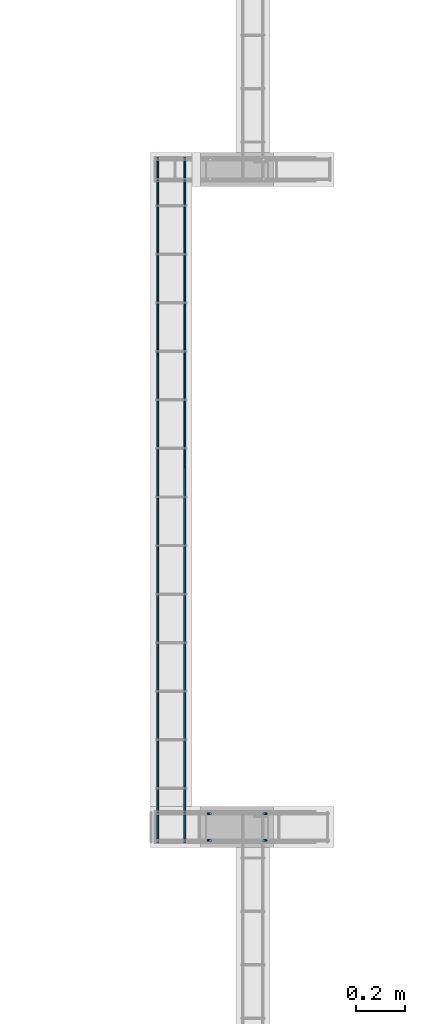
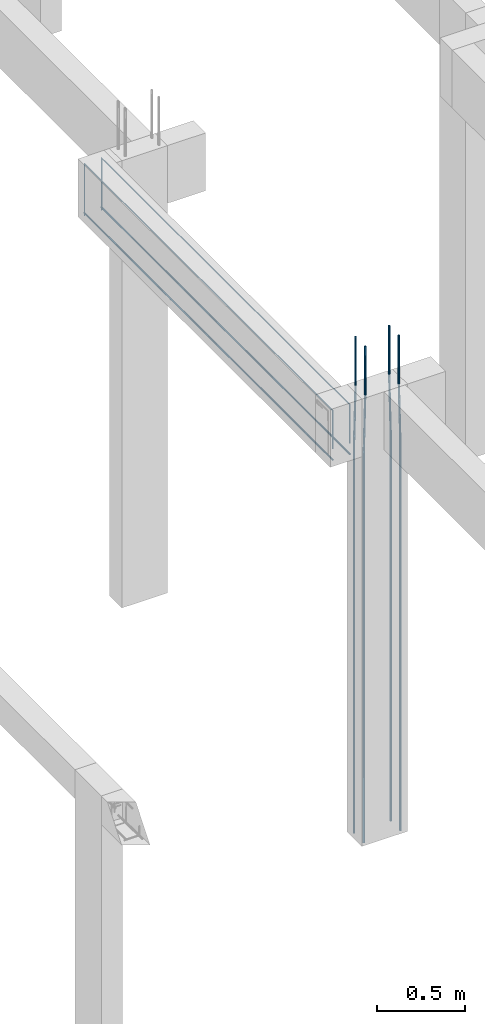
# One storey, part 21 of 236: 8 reinforcing bars.
"""IFC4 building model written with IfcOpenShell, lengths in centimetres."""

from ifc_helpers import new_model, entity, si_unit, derived_unit, frame, origin_with_axes, place, context, project, spatial, element, save


model = new_model("IFC4")

# Units and contexts
model_context = context("Model", 3, precision=1e-05, world=origin_with_axes(), identifier="Body")
ifc_project = project(units=[si_unit("LENGTHUNIT", "METRE", prefix="CENTI"), si_unit("VOLUMEUNIT", "CUBIC_METRE"), si_unit("AREAUNIT", "SQUARE_METRE"), si_unit("POWERUNIT", "WATT"), si_unit("LUMINOUSFLUXUNIT", "LUMEN"), si_unit("ELECTRICCURRENTUNIT", "AMPERE"), si_unit("PRESSUREUNIT", "PASCAL", prefix="KILO"), si_unit("MASSUNIT", "GRAM", prefix="KILO"), si_unit("PLANEANGLEUNIT", "RADIAN"), derived_unit("VOLUMETRICFLOWRATEUNIT", [(si_unit("LENGTHUNIT", "METRE"), 3), (si_unit("TIMEUNIT", "SECOND"), -1)])], contexts=[model_context])

# Site, building, storey
site_placement = place(None, frame((-4000.0, 0.0, 0.0), z_axis=(0.0, 0.0, 1.0), x_axis=(1.0, 0.0, 0.0)))
site = spatial("IfcSite", under=ifc_project, at=site_placement, Name="PADRÃO")
building_placement = place(site_placement, frame((0.0, 0.0, -14.0)))
building = spatial("IfcBuilding", under=site, at=building_placement, Name="CRECHE PRÉ-ESCOLA TIPO 2")
placement_1 = place(building_placement, origin_with_axes())
placement_2 = place(placement_1, frame((0.0, 0.0, 30.0), z_axis=(0.0, 0.0, 1.0), x_axis=(1.0, 0.0, 0.0)))
storey_placement = place(placement_2, frame((0.0, 0.0, 310.0), z_axis=(0.0, 0.0, 1.0), x_axis=(1.0, 0.0, 0.0)))
storey = spatial("IfcBuildingStorey", under=building, at=storey_placement, Name="TERREO", CompositionType="ELEMENT", Elevation=326.0)

# Reinforcing bars
for number, where, z_axis, x_axis, name in (
    (1, (281.0, 1036.0, 33.3573001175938), (0.0, 0.0, 1.0), (1.0, 0.0, 0.0), "P116 - Longitudinal"),
    (2, (281.0, 1025.0, 33.3573001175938), (0.0, 0.0, 1.0), (1.0, 0.0, 0.0), "P116 - Longitudinal"),
):
    element("IfcReinforcingBar", number, at=place(storey_placement, frame(where, z_axis=z_axis, x_axis=x_axis)), inside=storey, Name=name, BarLength=0.0, CrossSectionArea=7.853981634e-05, NominalDiameter=1.0, PredefinedType="MAIN", context=model_context, shape_type="AdvancedSweptSolid", body=[
        entity("IfcSweptDiskSolid", entity("IfcCompositeCurve", [entity("IfcCompositeCurveSegment", "CONTINUOUS", True, entity("IfcPolyline", [entity("IfcCartesianPoint", [0.5, 0.0, -343.357300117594]), entity("IfcCartesianPoint", [0.5, 0.0, -73.3573001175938])])), entity("IfcCompositeCurveSegment", "CONTINUOUS", True, entity("IfcPolyline", [entity("IfcCartesianPoint", [0.5, 0.0, -73.3573001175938]), entity("IfcCartesianPoint", [-0.5, 0.0, -33.3573001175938])])), entity("IfcCompositeCurveSegment", "CONTINUOUS", True, entity("IfcPolyline", [entity("IfcCartesianPoint", [-0.5, 0.0, -33.3573001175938]), entity("IfcCartesianPoint", [-0.5, 0.0, 0.0])]))], False), 0.5),
    ])
for number, where, z_axis, x_axis, name in (
    (3, (258.0, 1036.0, 33.3573001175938), (0.0, 0.0, 1.0), (1.0, 0.0, 0.0), "P116 - Longitudinal"),
    (4, (258.0, 1025.0, 33.3573001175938), (0.0, 0.0, 1.0), (1.0, 0.0, 0.0), "P116 - Longitudinal"),
):
    element("IfcReinforcingBar", number, at=place(storey_placement, frame(where, z_axis=z_axis, x_axis=x_axis)), inside=storey, Name=name, BarLength=0.0, CrossSectionArea=7.853981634e-05, NominalDiameter=1.0, PredefinedType="MAIN", context=model_context, shape_type="AdvancedSweptSolid", body=[
        entity("IfcSweptDiskSolid", entity("IfcCompositeCurve", [entity("IfcCompositeCurveSegment", "CONTINUOUS", True, entity("IfcPolyline", [entity("IfcCartesianPoint", [-0.5, 0.0, -343.357300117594]), entity("IfcCartesianPoint", [-0.5, 0.0, -73.3573001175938])])), entity("IfcCompositeCurveSegment", "CONTINUOUS", True, entity("IfcPolyline", [entity("IfcCartesianPoint", [-0.5, 0.0, -73.3573001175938]), entity("IfcCartesianPoint", [0.5, 0.0, -33.3573001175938])])), entity("IfcCompositeCurveSegment", "CONTINUOUS", True, entity("IfcPolyline", [entity("IfcCartesianPoint", [0.5, 0.0, -33.3573001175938]), entity("IfcCartesianPoint", [0.5, 0.0, 0.0])]))], False), 0.5),
    ])
for number, where, z_axis, x_axis, name in (
    (5, (236.75, 1165.25, -36.7), (0.0, 0.0, 1.0), (1.0, 0.0, 0.0), "V260 - Longitudinal inferior"),
    (6, (247.95, 1165.25, -36.7), (0.0, 0.0, 1.0), (1.0, 0.0, 0.0), "V260 - Longitudinal inferior"),
):
    element("IfcReinforcingBar", number, at=place(storey_placement, frame(where, z_axis=z_axis, x_axis=x_axis)), inside=storey, Name=name, BarLength=0.0, CrossSectionArea=5.0265482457e-05, NominalDiameter=0.8, PredefinedType="MAIN", context=model_context, shape_type="AdvancedSweptSolid", body=[
        entity("IfcSweptDiskSolid", entity("IfcCompositeCurve", [entity("IfcCompositeCurveSegment", "CONTINUOUS", True, entity("IfcPolyline", [entity("IfcCartesianPoint", [0.0, -141.25, -0.4]), entity("IfcCartesianPoint", [0.0, 141.25, -0.4])]))], False), 0.4),
    ])
for number, where, z_axis, x_axis, name in (
    (7, (247.95, 1165.25, -2.49624973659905), (0.0, 0.0, 1.0), (1.0, 0.0, 0.0), "V260 - Longitudinal superior"),
    (8, (236.75, 1165.25, -2.49624973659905), (0.0, 0.0, 1.0), (1.0, 0.0, 0.0), "V260 - Longitudinal superior"),
):
    element("IfcReinforcingBar", number, at=place(storey_placement, frame(where, z_axis=z_axis, x_axis=x_axis)), inside=storey, Name=name, BarLength=0.0, CrossSectionArea=5.0265482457e-05, NominalDiameter=0.8, PredefinedType="MAIN", context=model_context, shape_type="AdvancedSweptSolid", body=[
        entity("IfcSweptDiskSolid", entity("IfcCompositeCurve", [entity("IfcCompositeCurveSegment", "CONTINUOUS", True, entity("IfcPolyline", [entity("IfcCartesianPoint", [0.0, -140.85, -27.089590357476]), entity("IfcCartesianPoint", [0.0, -140.85, -0.403750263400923])])), entity("IfcCompositeCurveSegment", "CONTINUOUS", True, entity("IfcPolyline", [entity("IfcCartesianPoint", [0.0, -140.85, -0.403750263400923]), entity("IfcCartesianPoint", [0.0, 140.85, -0.403750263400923])])), entity("IfcCompositeCurveSegment", "CONTINUOUS", True, entity("IfcPolyline", [entity("IfcCartesianPoint", [0.0, 140.85, -0.403750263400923]), entity("IfcCartesianPoint", [0.0, 140.85, -36.4037502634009])]))], False), 0.4),
    ])

save(model, "model.ifc")
